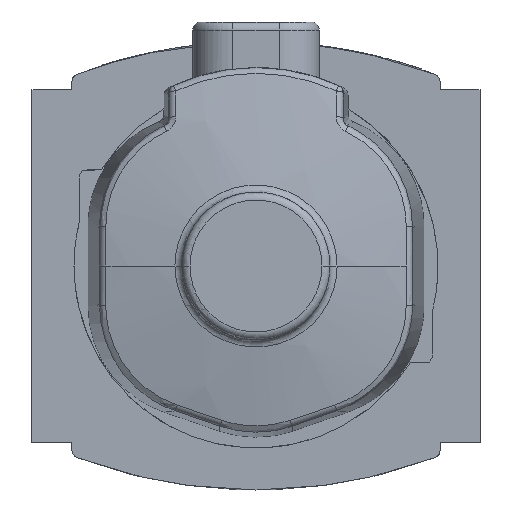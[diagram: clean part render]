
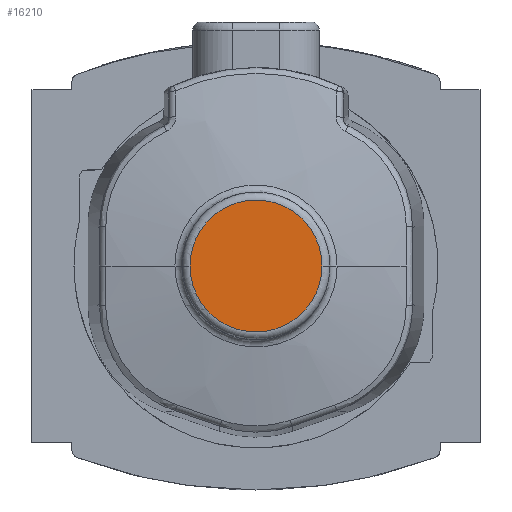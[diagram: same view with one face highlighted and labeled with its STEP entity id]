
A CAD part, front view. The second image highlights one B-rep face of the part: STEP entity #16210.
In plain terms, the highlighted planar face has unit normal (0, -1, 0).
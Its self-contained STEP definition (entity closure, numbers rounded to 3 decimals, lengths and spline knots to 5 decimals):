
#16210=ADVANCED_FACE('',(#18792),#17757,.T.);
#17757=PLANE('',#39047);
#18792=FACE_OUTER_BOUND('',#20362,.T.);
#20362=EDGE_LOOP('',(#22365,#22366));
#22365=ORIENTED_EDGE('',*,*,#30425,.F.);
#22366=ORIENTED_EDGE('',*,*,#30426,.F.);
#30425=EDGE_CURVE('',#36410,#36411,#34418,.T.);
#30426=EDGE_CURVE('',#36411,#36410,#34419,.T.);
#34418=B_SPLINE_CURVE_WITH_KNOTS('',3,(#46857,#46858,#46859,#46860,#46861,
#46862,#46863,#46864,#46865,#46866),.UNSPECIFIED.,.F.,.F.,(4,2,2,2,4),(0.,
0.25,0.5,0.75,1.),.UNSPECIFIED.);
#34419=B_SPLINE_CURVE_WITH_KNOTS('',3,(#46869,#46870,#46871,#46872,#46873,
#46874,#46875,#46876,#46877,#46878),.UNSPECIFIED.,.F.,.F.,(4,2,2,2,4),(0.,
0.25,0.5,0.75,1.),.UNSPECIFIED.);
#36410=VERTEX_POINT('',#46867);
#36411=VERTEX_POINT('',#46868);
#39047=AXIS2_PLACEMENT_3D('',#46879,#40869,#40870);
#40869=DIRECTION('',(0.,-1.,0.));
#40870=DIRECTION('',(1.,0.,0.));
#46857=CARTESIAN_POINT('',(-0.3248,-2.97244,0.));
#46858=CARTESIAN_POINT('',(-0.3248,-2.97244,0.08503));
#46859=CARTESIAN_POINT('',(-0.2898,-2.97244,0.16954));
#46860=CARTESIAN_POINT('',(-0.16954,-2.97244,0.2898));
#46861=CARTESIAN_POINT('',(-0.08503,-2.97244,0.3248));
#46862=CARTESIAN_POINT('',(0.08503,-2.97244,0.3248));
#46863=CARTESIAN_POINT('',(0.16954,-2.97244,0.2898));
#46864=CARTESIAN_POINT('',(0.2898,-2.97244,0.16954));
#46865=CARTESIAN_POINT('',(0.3248,-2.97244,0.08503));
#46866=CARTESIAN_POINT('',(0.3248,-2.97244,0.));
#46867=CARTESIAN_POINT('',(-0.3248,-2.97244,0.));
#46868=CARTESIAN_POINT('',(0.3248,-2.97244,0.));
#46869=CARTESIAN_POINT('',(0.3248,-2.97244,0.));
#46870=CARTESIAN_POINT('',(0.3248,-2.97244,-0.08503));
#46871=CARTESIAN_POINT('',(0.2898,-2.97244,-0.16954));
#46872=CARTESIAN_POINT('',(0.16954,-2.97244,-0.2898));
#46873=CARTESIAN_POINT('',(0.08503,-2.97244,-0.3248));
#46874=CARTESIAN_POINT('',(-0.08503,-2.97244,-0.3248));
#46875=CARTESIAN_POINT('',(-0.16954,-2.97244,-0.2898));
#46876=CARTESIAN_POINT('',(-0.2898,-2.97244,-0.16954));
#46877=CARTESIAN_POINT('',(-0.3248,-2.97244,-0.08503));
#46878=CARTESIAN_POINT('',(-0.3248,-2.97244,0.));
#46879=CARTESIAN_POINT('',(-0.3287,-2.97244,-0.3287));
